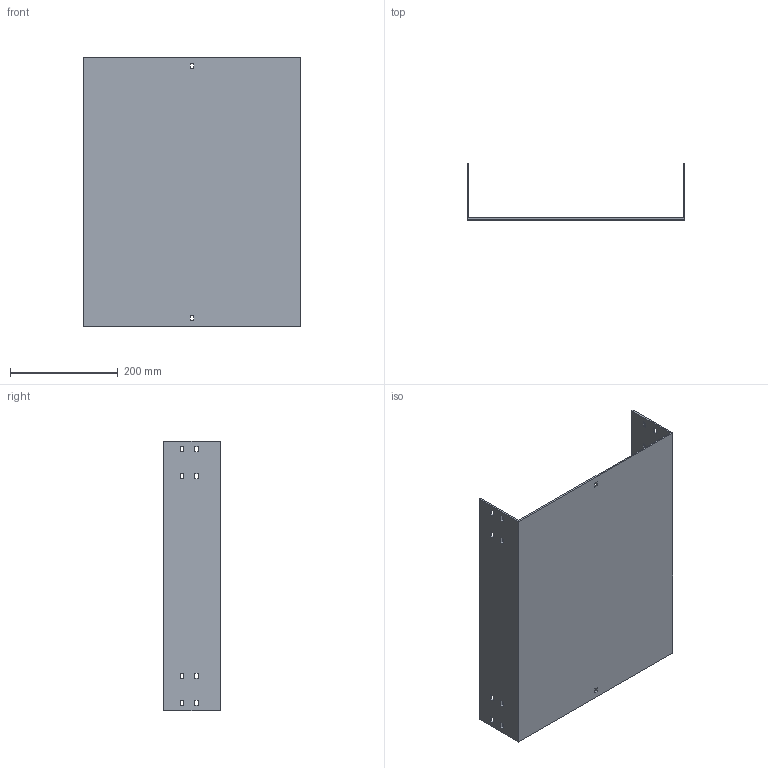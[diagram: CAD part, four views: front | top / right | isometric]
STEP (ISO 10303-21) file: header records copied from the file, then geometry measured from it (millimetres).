
FILE_DESCRIPTION (( 'STEP AP214' ), '1' );
FILE_NAME ('03F7D400.step', '2025-02-21T13:16:51', ( '' ), ( '' ), 'SwSTEP 2.0', 'SolidWorks 2023', '' );
FILE_SCHEMA (( 'AUTOMOTIVE_DESIGN' ));
Length unit declared in the file: millimetre
Products named in the file (1): 03F7D400
Bounding box: 404 x 104 x 500 mm (x, y, z)
Volume: 1054420.5 mm3; surface area: 612382 mm2
Topology: 1 solids, 1 shells, 82 faces, 240 edges, 160 vertices
Faces by surface type: plane 82
Entity records: 2759 total; most frequent: CARTESIAN_POINT 483, ORIENTED_EDGE 480, DIRECTION 406, EDGE_CURVE 240, VECTOR 240, LINE 240, VERTEX_POINT 160, EDGE_LOOP 118
